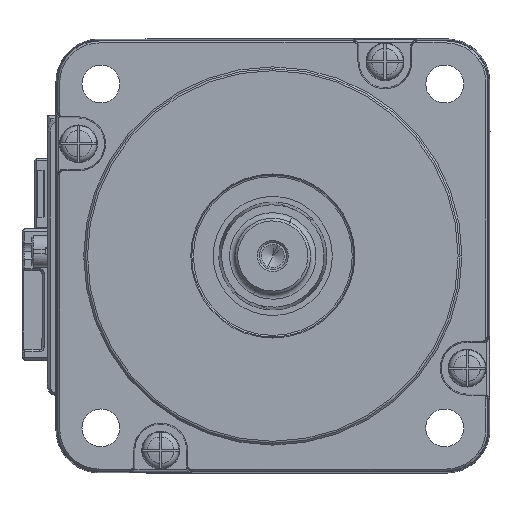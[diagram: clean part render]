
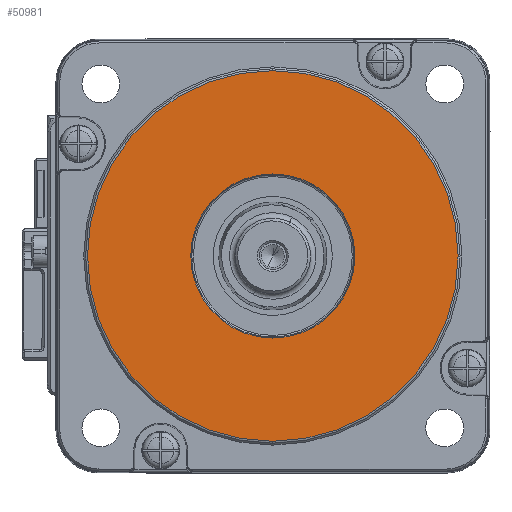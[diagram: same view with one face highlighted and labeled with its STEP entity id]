
A CAD part, left-side view. The second image highlights one B-rep face of the part: STEP entity #50981.
In plain terms, the highlighted planar face has unit normal (-1, 0, 0) as drawn and (0, 0, 1) by its records, which use the part's own axes.
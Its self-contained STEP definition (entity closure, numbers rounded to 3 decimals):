
#272 = EDGE_CURVE ( 'NONE', #23922, #49225, #71760, .T. ) ;
#1007 = DIRECTION ( 'NONE',  ( 0., 0., 1. ) ) ;
#1264 = EDGE_LOOP ( 'NONE', ( #51639, #69545 ) ) ;
#5537 = CARTESIAN_POINT ( 'NONE',  ( 115.182, 0., 0. ) ) ;
#5957 = EDGE_CURVE ( 'NONE', #46018, #45895, #28264, .T. ) ;
#6165 = PLANE ( 'NONE',  #11896 ) ;
#6281 = DIRECTION ( 'NONE',  ( 0., 0., 1. ) ) ;
#8597 = DIRECTION ( 'NONE',  ( -1., 0., 0. ) ) ;
#9109 = DIRECTION ( 'NONE',  ( 1., 0., 0. ) ) ;
#11595 = DIRECTION ( 'NONE',  ( -1., 0., 0. ) ) ;
#11896 = AXIS2_PLACEMENT_3D ( 'NONE', #51256, #45772, #12334 ) ;
#12334 = DIRECTION ( 'NONE',  ( 1., 0., 0. ) ) ;
#18097 = CARTESIAN_POINT ( 'NONE',  ( 100., 0., 0. ) ) ;
#18532 = FACE_BOUND ( 'NONE', #1264, .T. ) ;
#23771 = ORIENTED_EDGE ( 'NONE', *, *, #51602, .T. ) ;
#23922 = VERTEX_POINT ( 'NONE', #70039 ) ;
#24073 = ORIENTED_EDGE ( 'NONE', *, *, #272, .T. ) ;
#25861 = CARTESIAN_POINT ( 'NONE',  ( 100., 0., 0. ) ) ;
#26655 = CARTESIAN_POINT ( 'NONE',  ( 65.707, 0., 0. ) ) ;
#28264 = CIRCLE ( 'NONE', #52669, 15.182 ) ;
#28782 = AXIS2_PLACEMENT_3D ( 'NONE', #18097, #1007, #11595 ) ;
#29076 = FACE_OUTER_BOUND ( 'NONE', #64691, .T. ) ;
#36739 = DIRECTION ( 'NONE',  ( 0., 0., 1. ) ) ;
#41700 = CARTESIAN_POINT ( 'NONE',  ( 100., 0., 0. ) ) ;
#44958 = AXIS2_PLACEMENT_3D ( 'NONE', #51022, #6281, #50639 ) ;
#45772 = DIRECTION ( 'NONE',  ( 0., 0., -1. ) ) ;
#45895 = VERTEX_POINT ( 'NONE', #5537 ) ;
#46018 = VERTEX_POINT ( 'NONE', #63596 ) ;
#47502 = DIRECTION ( 'NONE',  ( 0., 0., 1. ) ) ;
#49225 = VERTEX_POINT ( 'NONE', #26655 ) ;
#50639 = DIRECTION ( 'NONE',  ( 1., 0., 0. ) ) ;
#50981 = ADVANCED_FACE ( 'NONE', ( #29076, #18532 ), #6165, .F. ) ;
#51022 = CARTESIAN_POINT ( 'NONE',  ( 100., 0., 0. ) ) ;
#51256 = CARTESIAN_POINT ( 'NONE',  ( 100., 0., 0. ) ) ;
#51602 = EDGE_CURVE ( 'NONE', #49225, #23922, #67538, .T. ) ;
#51639 = ORIENTED_EDGE ( 'NONE', *, *, #59409, .F. ) ;
#52669 = AXIS2_PLACEMENT_3D ( 'NONE', #25861, #36739, #9109 ) ;
#59409 = EDGE_CURVE ( 'NONE', #45895, #46018, #65894, .T. ) ;
#59422 = AXIS2_PLACEMENT_3D ( 'NONE', #41700, #47502, #8597 ) ;
#63596 = CARTESIAN_POINT ( 'NONE',  ( 84.818, 0., 0. ) ) ;
#64691 = EDGE_LOOP ( 'NONE', ( #23771, #24073 ) ) ;
#65894 = CIRCLE ( 'NONE', #44958, 15.182 ) ;
#67538 = CIRCLE ( 'NONE', #59422, 34.293 ) ;
#69545 = ORIENTED_EDGE ( 'NONE', *, *, #5957, .F. ) ;
#70039 = CARTESIAN_POINT ( 'NONE',  ( 134.293, 0., 0. ) ) ;
#71760 = CIRCLE ( 'NONE', #28782, 34.293 ) ;
